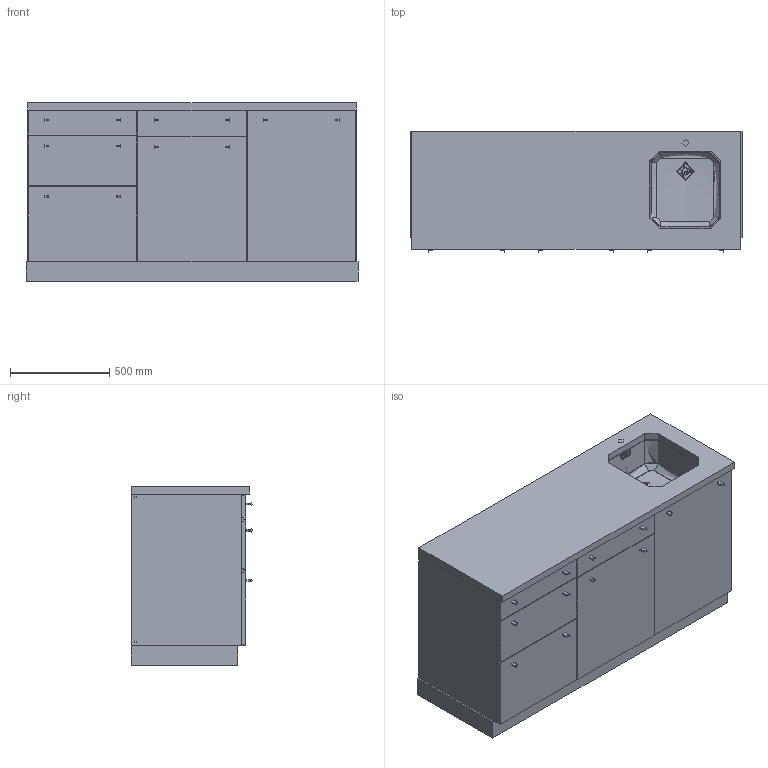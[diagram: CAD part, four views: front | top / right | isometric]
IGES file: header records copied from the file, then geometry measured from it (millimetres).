
Start section:  Autodesk DirectConnect version 5.0.70.0 ---- IGES version 5.3
Global section: file name: X:\test_sw.iges; native system: Autodesk DirectConnect 5.0.70.0; preprocessor: 5.0.70.0; author: MC; organization: Unknown; date: 20120814.102013; units: millimetre
Bounding box: 1670 x 611 x 900 mm (x, y, z)
Surface area: 23052013.5 mm2 (no closed solid volume)
Topology: 0 solids, 0 shells, 7019 faces, 43174 edges, 41980 vertices
Faces by surface type: bspline 7019
